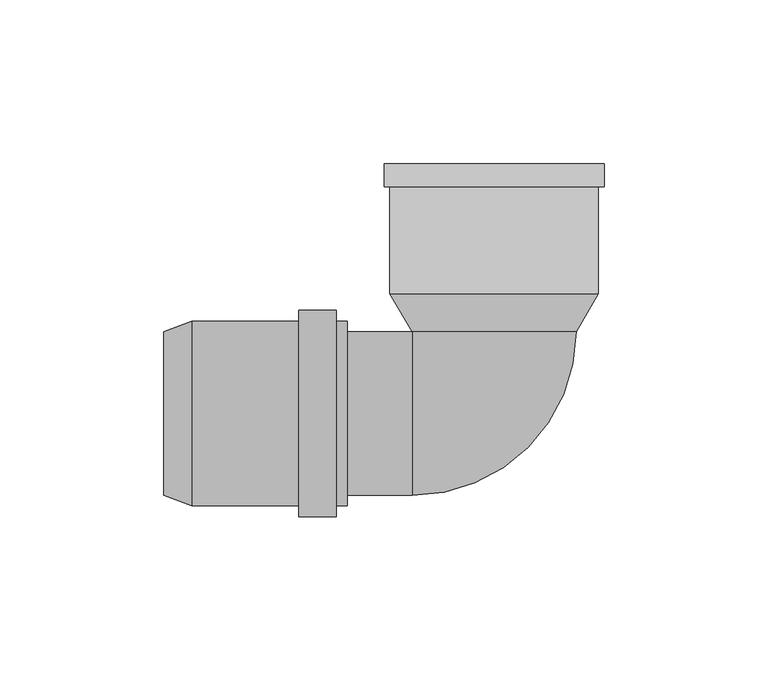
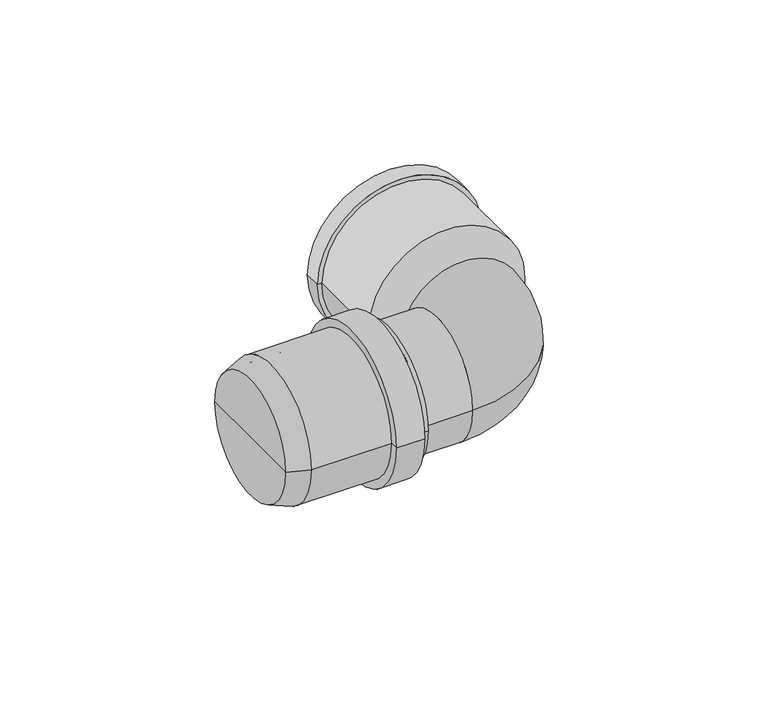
"""IFC4 building model written with IfcOpenShell, lengths in millimetres: pipe fitting geometry, pf_HTSW : pf_HTSW."""

from ifc_helpers import new_model, si_unit, point, frame, origin, origin_2d, place, context, project, spatial, polyline, circle_curve, ellipse_curve, trimmed, segment, composite_curve, outline, extrude, source, transform, mapped, element, save
from ifc_brep_helpers import plane_surface, cylinder_surface, revolved_surface, advanced_brep


def pipe_fitting_4528dc95(model_context):
    return source(origin(), model_context, "Body", "SolidModel", [
        advanced_brep(
        [(-100.8, -25.0, 0.0), (-100.8, 25.0, 0.0), (-92.3, 28.1, 0.0), (-92.3, -28.1, 0.0), (-100.8, 0.0, 0.0), (-44.8, -28.1, 0.0), (-44.8, 28.1, 0.0), (-44.8, 25.0, 0.0), (-44.8, -25.0, 0.0), (-48.2, -28.1, 0.0), (-48.2, 28.1, 0.0), (-48.2, -31.5, 0.0), (-48.2, 31.5, 0.0), (-59.6, -31.5, 0.0), (-59.6, 31.5, 0.0), (-59.6, -28.1, 0.0), (-59.6, 28.1, 0.0), (-92.3, -25.0, 0.0), (-92.3, 25.0, 0.0), (-92.3, 0.0, 0.0)],
        [
            (0, 1, circle_curve(frame((-100.8, 0.0, 0.0), z_axis=(1.0, 0.0, 0.0), x_axis=(0.0, 1.0, 0.0)), 25.0)),
            (1, 2),
            (2, 3, circle_curve(frame((-92.3, 0.0, 0.0), z_axis=(-1.0, 0.0, 0.0), x_axis=(0.0, 1.0, 0.0)), 28.1)),
            (3, 0),
            (1, 0, circle_curve(frame((-100.8, 0.0, 0.0), z_axis=(1.0, 0.0, 0.0), x_axis=(0.0, 1.0, 0.0)), 25.0)),
            (3, 2, circle_curve(frame((-92.3, 0.0, 0.0), z_axis=(-1.0, 0.0, 0.0), x_axis=(0.0, 1.0, 0.0)), 28.1)),
            (4, 1),
            (0, 4),
            (5, 6, circle_curve(frame((-44.8, 0.0, 0.0), z_axis=(1.0, 0.0, 0.0), x_axis=(0.0, 1.0, 0.0)), 28.1)),
            (6, 7),
            (7, 8, circle_curve(frame((-44.8, 0.0, 0.0), z_axis=(-1.0, 0.0, 0.0), x_axis=(0.0, 1.0, 0.0)), 25.0)),
            (8, 5),
            (6, 5, circle_curve(frame((-44.8, 0.0, 0.0), z_axis=(1.0, 0.0, 0.0), x_axis=(0.0, 1.0, 0.0)), 28.1)),
            (8, 7, circle_curve(frame((-44.8, 0.0, 0.0), z_axis=(-1.0, 0.0, 0.0), x_axis=(0.0, 1.0, 0.0)), 25.0)),
            (9, 10, circle_curve(frame((-48.2, 0.0, 0.0), z_axis=(1.0, 0.0, 0.0), x_axis=(0.0, 1.0, 0.0)), 28.1)),
            (10, 6),
            (5, 9),
            (10, 9, circle_curve(frame((-48.2, 0.0, 0.0), z_axis=(1.0, 0.0, 0.0), x_axis=(0.0, 1.0, 0.0)), 28.1)),
            (11, 12, circle_curve(frame((-48.2, 0.0, 0.0), z_axis=(1.0, 0.0, 0.0), x_axis=(0.0, 1.0, 0.0)), 31.5)),
            (12, 10),
            (9, 11),
            (12, 11, circle_curve(frame((-48.2, 0.0, 0.0), z_axis=(1.0, 0.0, 0.0), x_axis=(0.0, 1.0, 0.0)), 31.5)),
            (13, 14, circle_curve(frame((-59.6, 0.0, 0.0), z_axis=(1.0, 0.0, 0.0), x_axis=(0.0, 1.0, 0.0)), 31.5)),
            (14, 12),
            (11, 13),
            (14, 13, circle_curve(frame((-59.6, 0.0, 0.0), z_axis=(1.0, 0.0, 0.0), x_axis=(0.0, 1.0, 0.0)), 31.5)),
            (15, 16, circle_curve(frame((-59.6, 0.0, 0.0), z_axis=(1.0, 0.0, 0.0), x_axis=(0.0, 1.0, 0.0)), 28.1)),
            (16, 14),
            (13, 15),
            (16, 15, circle_curve(frame((-59.6, 0.0, 0.0), z_axis=(1.0, 0.0, 0.0), x_axis=(0.0, 1.0, 0.0)), 28.1)),
            (2, 16),
            (15, 3),
            (17, 18, circle_curve(frame((-92.3, 0.0, 0.0), z_axis=(1.0, 0.0, 0.0), x_axis=(0.0, 1.0, 0.0)), 25.0)),
            (18, 19),
            (19, 17),
            (18, 17, circle_curve(frame((-92.3, 0.0, 0.0), z_axis=(1.0, 0.0, 0.0), x_axis=(0.0, 1.0, 0.0)), 25.0)),
            (7, 18),
            (17, 8),
        ],
        [
            revolved_surface(polyline([(-92.3, 28.1, 0.0), (-100.8, 25.0, 0.0)]), (-100.8, 0.0, 0.0), (-1.0, 0.0, 0.0)),
            plane_surface(frame((-100.8, 0.0, 0.0), z_axis=(-1.0, 0.0, 0.0), x_axis=(0.0, 1.0, 0.0))),
            plane_surface(frame((-44.8, 0.0, 0.0), z_axis=(1.0, 0.0, 0.0), x_axis=(0.0, 1.0, 0.0))),
            cylinder_surface(frame((-100.8, 0.0, 0.0), z_axis=(-1.0, 0.0, 0.0), x_axis=(0.0, 1.0, 0.0)), 28.1),
            plane_surface(frame((-48.2, 0.0, 0.0), z_axis=(1.0, 0.0, 0.0), x_axis=(0.0, 1.0, 0.0))),
            cylinder_surface(frame((-100.8, 0.0, 0.0), z_axis=(-1.0, 0.0, 0.0), x_axis=(0.0, 1.0, 0.0)), 31.5),
            plane_surface(frame((-59.6, 0.0, 0.0), z_axis=(-1.0, 0.0, 0.0), x_axis=(0.0, 1.0, 0.0))),
            plane_surface(frame((-92.3, 0.0, 0.0), z_axis=(1.0, 0.0, 0.0), x_axis=(0.0, 1.0, 0.0))),
            revolved_surface(polyline([(-92.3, 25.0, 0.0), (-44.8, 25.0, 0.0)]), (-100.8, 0.0, 0.0), (-1.0, 0.0, 0.0)),
        ],
        [
            (0, [[1, 2, 3, 4]]),
            (0, [[5, -4, 6, -2]]),
            (1, [[7, -1, 8]]),
            (1, [[-8, -5, -7]]),
            (2, [[9, 10, 11, 12]]),
            (2, [[13, -12, 14, -10]]),
            (3, [[15, 16, -9, 17]]),
            (3, [[18, -17, -13, -16]]),
            (4, [[19, 20, -15, 21]]),
            (4, [[22, -21, -18, -20]]),
            (5, [[23, 24, -19, 25]]),
            (5, [[26, -25, -22, -24]]),
            (6, [[27, 28, -23, 29]]),
            (6, [[30, -29, -26, -28]]),
            (3, [[-3, 31, -27, 32]]),
            (3, [[-6, -32, -30, -31]]),
            (7, [[33, 34, 35]]),
            (7, [[36, -35, -34]]),
            (8, [[-11, 37, -33, 38]]),
            (8, [[-14, -38, -36, -37]]),
        ],
    ),
        extrude(outline(composite_curve([segment(trimmed(circle_curve(origin_2d(), 25.0), [point((-25.0, 0.0))], [point((25.0, 0.0))], False, "CARTESIAN"), True, "CONTINUOUS"), segment(trimmed(circle_curve(origin_2d(), 25.0), [point((25.0, 0.0))], [point((-25.0, 0.0))], False, "CARTESIAN"), True, "CONTINUOUS")], self_intersect=False)), frame((-44.8, 0.0, 0.0), z_axis=(1.0, 0.0, 0.0), x_axis=(0.0, 1.0, 0.0)), (0.0, 0.0, 1.0), 19.8),
        advanced_brep(
        [(25.0, 25.0, 0.0), (-25.0, 25.0, 0.0), (-25.0, -25.0, 0.0)],
        [
            (0, 1, circle_curve(frame((0.0, 25.0, 0.0), z_axis=(0.0, 1.0, 0.0), x_axis=(-1.0, 0.0, 0.0)), 25.0)),
            (1, 0, circle_curve(frame((0.0, 25.0, 0.0), z_axis=(0.0, 1.0, 0.0), x_axis=(-1.0, 0.0, 0.0)), 25.0)),
            (2, 1, circle_curve(frame((-25.0, 0.0, 0.0), z_axis=(-1.0, 0.0, 0.0), x_axis=(0.0, 1.0, 0.0)), 25.0)),
            (1, 2, circle_curve(frame((-25.0, 0.0, 0.0), z_axis=(-1.0, 0.0, 0.0), x_axis=(0.0, 1.0, 0.0)), 25.0)),
            (0, 2, circle_curve(frame((-25.0, 25.0, 0.0), z_axis=(0.0, 0.0, -1.0), x_axis=(1.0, 0.0, 0.0)), 50.0)),
        ],
        [
            plane_surface(frame((-25.0, 25.0, -14.8), z_axis=(0.0, 1.0, 0.0), x_axis=(1.0, 0.0, 0.0))),
            plane_surface(frame((-25.0, 25.0, -14.8), z_axis=(-1.0, 0.0, 0.0), x_axis=(0.0, -1.0, 0.0))),
            revolved_surface(trimmed(ellipse_curve(frame((0.0, 25.0, 0.0), z_axis=(0.0, 1.0, 0.0), x_axis=(-1.0, 0.0, 0.0)), 25.0, 25.0), [point((25.0, 25.0, 0.0))], [point((-25.0, 25.0, 0.0))], True, "CARTESIAN"), (-25.0, 25.0, -14.8), (0.0, 0.0, -1.0)),
            revolved_surface(trimmed(ellipse_curve(frame((0.0, 25.0, 0.0), z_axis=(0.0, 1.0, 0.0), x_axis=(-1.0, 0.0, 0.0)), 25.0, 25.0), [point((-25.0, 25.0, 0.0))], [point((25.0, 25.0, 0.0))], True, "CARTESIAN"), (-25.0, 25.0, -14.8), (0.0, 0.0, -1.0)),
        ],
        [
            (0, [[1, 2]]),
            (1, [[3, 4]]),
            (2, [[-1, 5, -4]]),
            (3, [[-5, -2, -3]]),
        ],
    ),
        advanced_brep(
        [(30.0, 76.2, 0.0), (-30.0, 76.2, 0.0), (-30.0, 36.5, 0.0), (30.0, 36.5, 0.0), (33.6, 76.2, 0.0), (-33.6, 76.2, 0.0), (31.8, 36.5, 0.0), (-31.8, 36.5, 0.0), (-31.8, 69.2184027, 0.0), (31.8, 69.2184027, 0.0), (25.0, 25.0, 0.0), (-25.0, 25.0, 0.0), (0.0, 25.0, 0.0), (-33.6, 69.2184027, 0.0), (33.6, 69.2184027, 0.0), (0.0, 36.5, 0.0)],
        [
            (0, 1, circle_curve(frame((0.0, 76.2, 0.0), z_axis=(0.0, 1.0, 0.0), x_axis=(-1.0, 0.0, 0.0)), 30.0)),
            (1, 2),
            (2, 3, circle_curve(frame((0.0, 36.5, 0.0), z_axis=(0.0, -1.0, 0.0), x_axis=(-1.0, 0.0, 0.0)), 30.0)),
            (3, 0),
            (4, 5, circle_curve(frame((0.0, 76.2, 0.0), z_axis=(0.0, 1.0, 0.0), x_axis=(-1.0, 0.0, 0.0)), 33.6)),
            (5, 1),
            (0, 4),
            (6, 7, circle_curve(frame((0.0, 36.5, 0.0), z_axis=(0.0, 1.0, 0.0), x_axis=(-1.0, 0.0, 0.0)), 31.8)),
            (7, 8),
            (8, 9, circle_curve(frame((0.0, 69.2184027, 0.0), z_axis=(0.0, -1.0, 0.0), x_axis=(-1.0, 0.0, 0.0)), 31.8)),
            (9, 6),
            (10, 11, circle_curve(frame((0.0, 25.0, 0.0), z_axis=(0.0, 1.0, 0.0), x_axis=(-1.0, 0.0, 0.0)), 25.0)),
            (11, 7),
            (6, 10),
            (12, 11),
            (10, 12),
            (8, 13),
            (13, 14, circle_curve(frame((0.0, 69.2184027, 0.0), z_axis=(0.0, -1.0, 0.0), x_axis=(-1.0, 0.0, 0.0)), 33.6)),
            (14, 9),
            (1, 0, circle_curve(frame((0.0, 76.2, 0.0), z_axis=(0.0, 1.0, 0.0), x_axis=(-1.0, 0.0, 0.0)), 30.0)),
            (3, 2, circle_curve(frame((0.0, 36.5, 0.0), z_axis=(0.0, -1.0, 0.0), x_axis=(-1.0, 0.0, 0.0)), 30.0)),
            (5, 4, circle_curve(frame((0.0, 76.2, 0.0), z_axis=(0.0, 1.0, 0.0), x_axis=(-1.0, 0.0, 0.0)), 33.6)),
            (13, 5),
            (4, 14),
            (13, 14, circle_curve(frame((0.0, 69.2184027, 0.0), z_axis=(0.0, 1.0, 0.0), x_axis=(-1.0, 0.0, 0.0)), 33.6)),
            (8, 9, circle_curve(frame((0.0, 69.2184027, 0.0), z_axis=(0.0, 1.0, 0.0), x_axis=(-1.0, 0.0, 0.0)), 31.8)),
            (7, 6, circle_curve(frame((0.0, 36.5, 0.0), z_axis=(0.0, 1.0, 0.0), x_axis=(-1.0, 0.0, 0.0)), 31.8)),
            (11, 10, circle_curve(frame((0.0, 25.0, 0.0), z_axis=(0.0, 1.0, 0.0), x_axis=(-1.0, 0.0, 0.0)), 25.0)),
            (2, 15),
            (15, 3),
        ],
        [
            revolved_surface(polyline([(-30.0, 36.5, 0.0), (-30.0, 76.2, 0.0)]), (0.0, 76.2, 0.0), (0.0, -1.0, 0.0)),
            plane_surface(frame((0.0, 76.2, 0.0), z_axis=(0.0, 1.0, 0.0), x_axis=(-1.0, 0.0, 0.0))),
            cylinder_surface(frame((0.0, 76.2, 0.0), z_axis=(0.0, -1.0, 0.0), x_axis=(-1.0, 0.0, 0.0)), 31.8),
            revolved_surface(polyline([(-31.8, 36.5, 0.0), (-25.0, 25.0, 0.0)]), (0.0, 76.2, 0.0), (0.0, -1.0, 0.0)),
            plane_surface(frame((0.0, 25.0, 0.0), z_axis=(0.0, -1.0, 0.0), x_axis=(-1.0, 0.0, 0.0))),
            plane_surface(frame((0.0, 69.2184027, 0.0), z_axis=(0.0, -1.0, 0.0), x_axis=(-1.0, 0.0, 0.0))),
            cylinder_surface(frame((0.0, 76.2, 0.0), z_axis=(0.0, -1.0, 0.0), x_axis=(-1.0, 0.0, 0.0)), 33.6),
            plane_surface(frame((0.0, 36.5, 0.0), z_axis=(0.0, 1.0, 0.0), x_axis=(-1.0, 0.0, 0.0))),
        ],
        [
            (0, [[1, 2, 3, 4]]),
            (1, [[5, 6, -1, 7]]),
            (2, [[8, 9, 10, 11]]),
            (3, [[12, 13, -8, 14]]),
            (4, [[15, -12, 16]]),
            (5, [[-10, 17, 18, 19]]),
            (0, [[20, -4, 21, -2]]),
            (1, [[22, -7, -20, -6]]),
            (6, [[-18, 23, -5, 24]]),
            (6, [[25, -24, -22, -23]]),
            (5, [[26, -19, -25, -17]]),
            (2, [[27, -11, -26, -9]]),
            (3, [[28, -14, -27, -13]]),
            (4, [[-16, -28, -15]]),
            (7, [[-3, 29, 30]]),
            (7, [[-21, -30, -29]]),
        ],
    ),
    ])


if __name__ == "__main__":
    model = new_model("IFC4")
    model_context = context("Model", 3, world=origin())
    ifc_project = project(units=[si_unit("LENGTHUNIT", "METRE", prefix="MILLI")], contexts=[model_context])
    site = spatial("IfcSite", under=ifc_project)
    building = spatial("IfcBuilding", under=site)
    placement = place(None, origin())
    pipe_fitting_shape = pipe_fitting_4528dc95(model_context)
    element("IfcPipeFitting", 1, ObjectType="pf_HTSW : pf_HTSW", at=placement, inside=building, context=model_context, shape_type="MappedRepresentation", body=[
        mapped(pipe_fitting_shape, transform((0.0, 0.0, 0.0), x_axis=(1.0, 0.0, 0.0), y_axis=(0.0, 1.0, 0.0), z_axis=(0.0, 0.0, 1.0))),
    ])
    save(model, "model.ifc")
